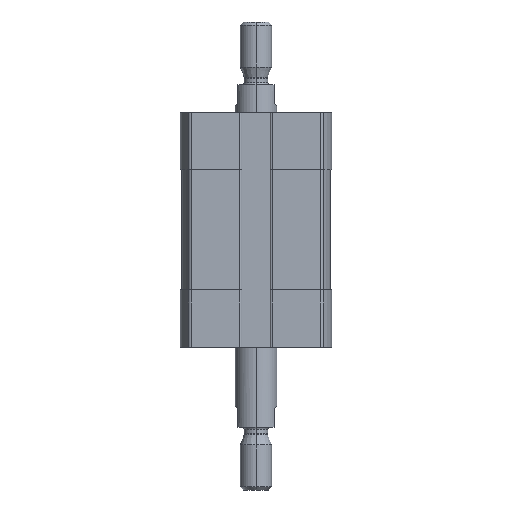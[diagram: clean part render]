
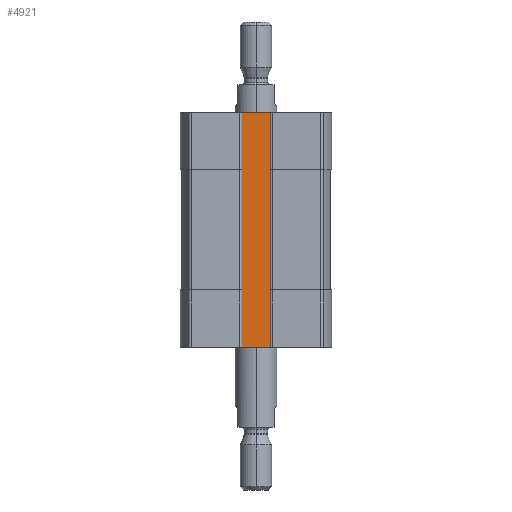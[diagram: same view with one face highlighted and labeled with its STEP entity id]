
A CAD part, left-side view. The second image highlights one B-rep face of the part: STEP entity #4921.
In plain terms, the highlighted planar face has unit normal (-1, 0, 0).
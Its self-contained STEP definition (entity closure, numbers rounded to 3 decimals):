
#126 = LINE ( 'NONE', #3778, #10507 ) ;
#532 = VERTEX_POINT ( 'NONE', #5396 ) ;
#1023 = VERTEX_POINT ( 'NONE', #3551 ) ;
#1496 = FACE_OUTER_BOUND ( 'NONE', #11276, .T. ) ;
#1633 = CARTESIAN_POINT ( 'NONE',  ( -9.3, 3., -45. ) ) ;
#1685 = VECTOR ( 'NONE', #4304, 1000. ) ;
#2018 = EDGE_CURVE ( 'NONE', #532, #7744, #2310, .T. ) ;
#2310 = LINE ( 'NONE', #11434, #4952 ) ;
#2352 = CARTESIAN_POINT ( 'NONE',  ( -9.3, -3., 0. ) ) ;
#2458 = DIRECTION ( 'NONE',  ( 0., 0., 1. ) ) ;
#3328 = AXIS2_PLACEMENT_3D ( 'NONE', #4249, #10627, #2458 ) ;
#3551 = CARTESIAN_POINT ( 'NONE',  ( -9.3, -3., -45. ) ) ;
#3778 = CARTESIAN_POINT ( 'NONE',  ( -9.3, -3., -45. ) ) ;
#4249 = CARTESIAN_POINT ( 'NONE',  ( -9.3, 3., -45. ) ) ;
#4304 = DIRECTION ( 'NONE',  ( 0., 0., 1. ) ) ;
#4921 = ADVANCED_FACE ( 'NONE', ( #1496 ), #5133, .T. ) ;
#4952 = VECTOR ( 'NONE', #10542, 1000. ) ;
#5043 = LINE ( 'NONE', #6728, #11417 ) ;
#5133 = PLANE ( 'NONE',  #3328 ) ;
#5396 = CARTESIAN_POINT ( 'NONE',  ( -9.3, 3., 0. ) ) ;
#6299 = ORIENTED_EDGE ( 'NONE', *, *, #9083, .T. ) ;
#6728 = CARTESIAN_POINT ( 'NONE',  ( -9.3, 3., -45. ) ) ;
#7053 = ORIENTED_EDGE ( 'NONE', *, *, #10603, .T. ) ;
#7399 = ORIENTED_EDGE ( 'NONE', *, *, #11194, .F. ) ;
#7413 = DIRECTION ( 'NONE',  ( 0., 0., 1. ) ) ;
#7744 = VERTEX_POINT ( 'NONE', #2352 ) ;
#8944 = VERTEX_POINT ( 'NONE', #1633 ) ;
#9083 = EDGE_CURVE ( 'NONE', #1023, #7744, #126, .T. ) ;
#9581 = DIRECTION ( 'NONE',  ( 0., -1., 0. ) ) ;
#9621 = CARTESIAN_POINT ( 'NONE',  ( -9.3, 3., -45. ) ) ;
#9734 = LINE ( 'NONE', #9621, #1685 ) ;
#10199 = ORIENTED_EDGE ( 'NONE', *, *, #2018, .F. ) ;
#10507 = VECTOR ( 'NONE', #7413, 1000. ) ;
#10542 = DIRECTION ( 'NONE',  ( 0., -1., 0. ) ) ;
#10603 = EDGE_CURVE ( 'NONE', #8944, #1023, #5043, .T. ) ;
#10627 = DIRECTION ( 'NONE',  ( -1., 0., 0. ) ) ;
#11194 = EDGE_CURVE ( 'NONE', #8944, #532, #9734, .T. ) ;
#11276 = EDGE_LOOP ( 'NONE', ( #10199, #7399, #7053, #6299 ) ) ;
#11417 = VECTOR ( 'NONE', #9581, 1000. ) ;
#11434 = CARTESIAN_POINT ( 'NONE',  ( -9.3, 3., 0. ) ) ;
